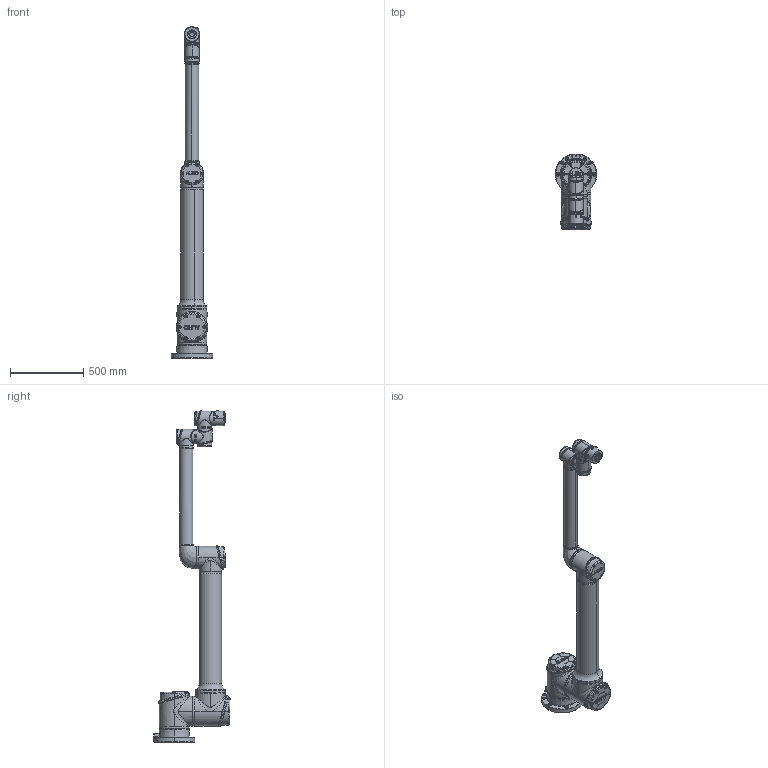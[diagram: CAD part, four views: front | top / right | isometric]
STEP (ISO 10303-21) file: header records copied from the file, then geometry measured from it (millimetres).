
FILE_DESCRIPTION (( 'STEP AP214' ), '1' );
FILE_NAME ('AUBO-iS20L(FT)-DRW_Robot_Machine_A0.STEP', '2025-11-04T08:00:59', ( '' ), ( '' ), 'SwSTEP 2.0', 'SolidWorks 2024', '' );
FILE_SCHEMA (( 'AUTOMOTIVE_DESIGN' ));
Length unit declared in the file: millimetre
Products named in the file (8): AUBO-iS20L(FT)-DRW_Robot_Machine_A0; M20模块; iS20L-小臂-外发; M45P-模块; C1-B1098D-简化; M20关节模块; iS20L-大臂-外发; iS25-底座-简化1
Assembly tree (8 placements, depth 3):
  AUBO-iS20L(FT)-DRW_Robot_Machine_A0
    iS20L-小臂-外发
    iS20L-大臂-外发
    M45P-模块
    iS25-底座-简化1
    M20模块  x2
      M20关节模块
    C1-B1098D-简化
Bounding box: 282.39 x 519.45 x 2267.5 mm (x, y, z)
Volume: 52644868.9 mm3; surface area: 1837772.1 mm2
Topology: 7 solids, 32 shells, 3081 faces, 7593 edges, 4710 vertices
Faces by surface type: bspline 1001, plane 856, cylinder 649, cone 274, torus 263, sphere 38
Entity records: 710232 total; most frequent: CARTESIAN_POINT 623589, ORIENTED_EDGE 13792, DIRECTION 9601, EDGE_CURVE 6896, VERTEX_POINT 4291, AXIS2_PLACEMENT_3D 3934, EDGE_LOOP 3023, B_SPLINE_CURVE_WITH_KNOTS 2978
